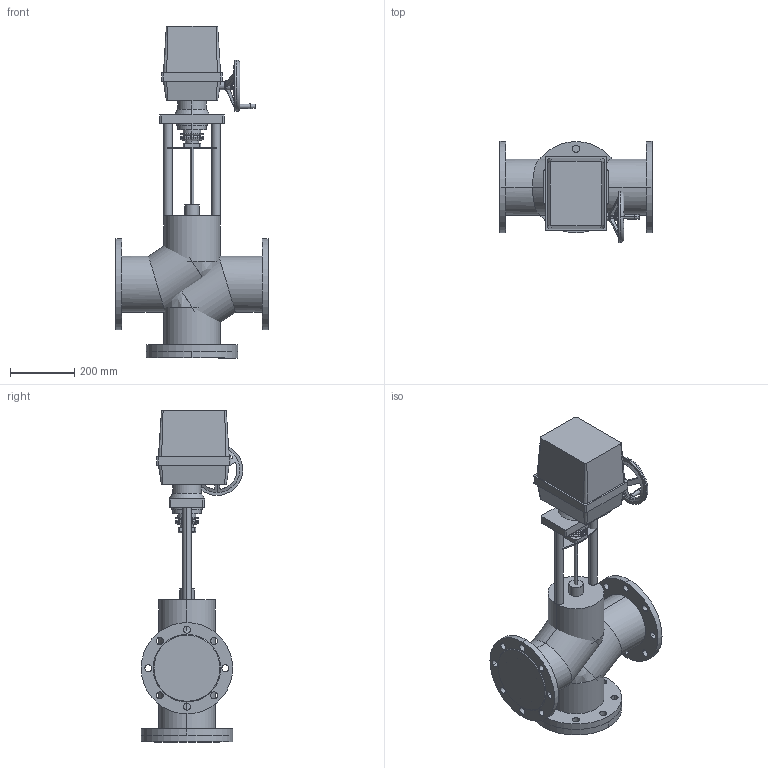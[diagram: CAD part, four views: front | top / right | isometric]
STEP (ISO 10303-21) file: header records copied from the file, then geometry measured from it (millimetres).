
FILE_DESCRIPTION(/* description */ (''),/* implementation_level */ '2;1');
FILE_NAME(/* name */ 'ТРК DN150 PN 1.6 МПа Regada ST2',/* time_stamp */ '2026-07-14T23:13:45+03:00',/* author */ (''),/* organization */ (''),/* preprocessor_version */ 'ST-DEVELOPER v20',/* originating_system */ '',/* authorisation */ '');
FILE_SCHEMA (('AP242_MANAGED_MODEL_BASED_3D_ENGINEERING_MIM_LF { 1 0 10303 442 1 1 4 }'));
Length unit declared in the file: millimetre
Products named in the file (14): TopLevelAssembly; Выдавливание; Модификатор; Модификатор_1; Выдавливание_
1; Выдавливание_
2; Вращение; Выдавливание_
3; Выдавливание_
4; Привод_Regada ST 2; Переход; Объемная геометрия 
присоединена; Полый Выдавливание; Объемная геометрия 
присоединена_1
Assembly tree (13 placements, depth 2):
  TopLevelAssembly
    Выдавливание
    Модификатор
    Модификатор_1
    Выдавливание_
1
    Выдавливание_
2
    Вращение
    Выдавливание_
3
    Выдавливание_
4
    Привод_Regada ST 2
    Переход
    Объемная геометрия 
присоединена
    Полый Выдавливание
    Объемная геометрия 
присоединена_1
Bounding box: 480 x 316.49 x 1035 mm (x, y, z)
Volume: 37714099 mm3; surface area: 2105284 mm2
Topology: 28 solids, 28 shells, 296 faces, 656 edges, 404 vertices
Faces by surface type: cylinder 132, plane 104, bspline 56, cone 4
Entity records: 9708 total; most frequent: CARTESIAN_POINT 2493, DIRECTION 1498, ORIENTED_EDGE 1292, EDGE_CURVE 646, AXIS2_PLACEMENT_3D 609, VERTEX_POINT 404, EDGE_LOOP 354, CIRCLE 334
